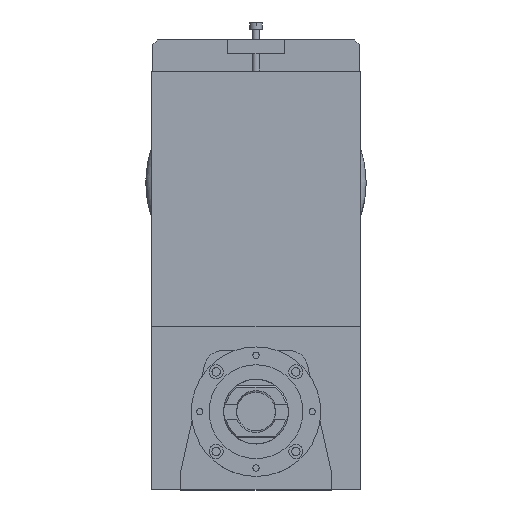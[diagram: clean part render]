
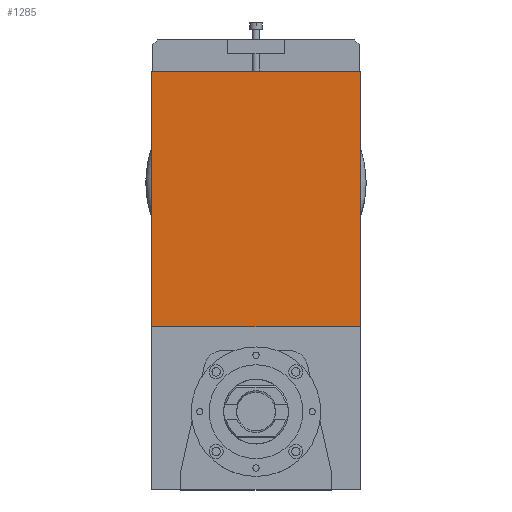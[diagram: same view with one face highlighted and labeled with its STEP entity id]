
A CAD part, top view. The second image highlights one B-rep face of the part: STEP entity #1285.
In plain terms, the highlighted planar face has unit normal (0, 0, 1).
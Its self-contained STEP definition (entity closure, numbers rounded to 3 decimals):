
#1220=CARTESIAN_POINT('',(111.,91.,2.));
#1221=VERTEX_POINT('',#1220);
#1222=CARTESIAN_POINT('',(-111.,91.,2.));
#1223=VERTEX_POINT('',#1222);
#1224=CARTESIAN_POINT('',(111.,91.,2.));
#1225=DIRECTION('',(-1.0,0.0,0.0));
#1226=VECTOR('',#1225,222.);
#1227=LINE('',#1224,#1226);
#1228=EDGE_CURVE('',#1221,#1223,#1227,.T.);
#1255=CARTESIAN_POINT('',(0.,227.,2.));
#1256=DIRECTION('',(0.0,0.0,1.0));
#1257=DIRECTION('',(1.0,0.0,0.0));
#1258=AXIS2_PLACEMENT_3D('',#1255,#1256,#1257);
#1259=PLANE('',#1258);
#1260=CARTESIAN_POINT('',(-111.,363.0,2.));
#1261=VERTEX_POINT('',#1260);
#1262=CARTESIAN_POINT('',(111.,363.0,2.));
#1263=VERTEX_POINT('',#1262);
#1264=CARTESIAN_POINT('',(-111.,363.0,2.));
#1265=DIRECTION('',(1.0,0.0,0.0));
#1266=VECTOR('',#1265,222.);
#1267=LINE('',#1264,#1266);
#1268=EDGE_CURVE('',#1261,#1263,#1267,.T.);
#1269=ORIENTED_EDGE('',*,*,#1268,.F.);
#1270=CARTESIAN_POINT('',(-111.,91.,2.));
#1271=DIRECTION('',(0.0,1.0,0.0));
#1272=VECTOR('',#1271,272.);
#1273=LINE('',#1270,#1272);
#1274=EDGE_CURVE('',#1223,#1261,#1273,.T.);
#1275=ORIENTED_EDGE('',*,*,#1274,.F.);
#1276=ORIENTED_EDGE('',*,*,#1228,.F.);
#1277=CARTESIAN_POINT('',(111.,363.0,2.));
#1278=DIRECTION('',(0.0,-1.0,0.0));
#1279=VECTOR('',#1278,272.);
#1280=LINE('',#1277,#1279);
#1281=EDGE_CURVE('',#1263,#1221,#1280,.T.);
#1282=ORIENTED_EDGE('',*,*,#1281,.F.);
#1283=EDGE_LOOP('',(#1269,#1275,#1276,#1282));
#1284=FACE_OUTER_BOUND('',#1283,.T.);
#1285=ADVANCED_FACE('',(#1284),#1259,.T.);
